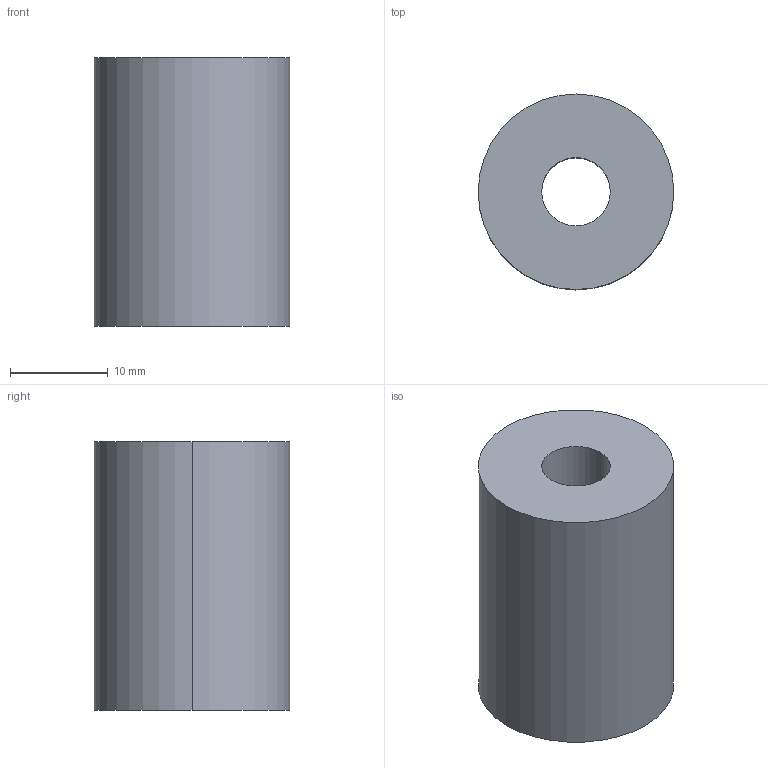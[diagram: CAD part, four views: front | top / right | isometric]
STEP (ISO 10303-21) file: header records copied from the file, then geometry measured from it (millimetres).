
FILE_DESCRIPTION(('STEP AP214'),'1');
FILE_NAME('E:/DISEGNI/LIBRERIE_3D/COMPONENTI/COMPONENTS_STEP/302_82873.stp','2016-03-30T15:44:31',(' '),(' '),'Spatial InterOp 3D',' ',' ');
FILE_SCHEMA(('automotive_design'));
Length unit declared in the file: metre
Products named in the file (1): 1
Bounding box: 20 x 20 x 27.5 mm (x, y, z)
Volume: 7581.1 mm3; surface area: 2884 mm2
Topology: 1 solids, 1 shells, 6 faces, 12 edges, 8 vertices
Faces by surface type: cylinder 4, plane 2
Entity records: 241 total; most frequent: DIRECTION 34, CARTESIAN_POINT 27, ORIENTED_EDGE 24, AXIS2_PLACEMENT_3D 15, EDGE_CURVE 12, EDGE_LOOP 8, VERTEX_POINT 8, CIRCLE 8
